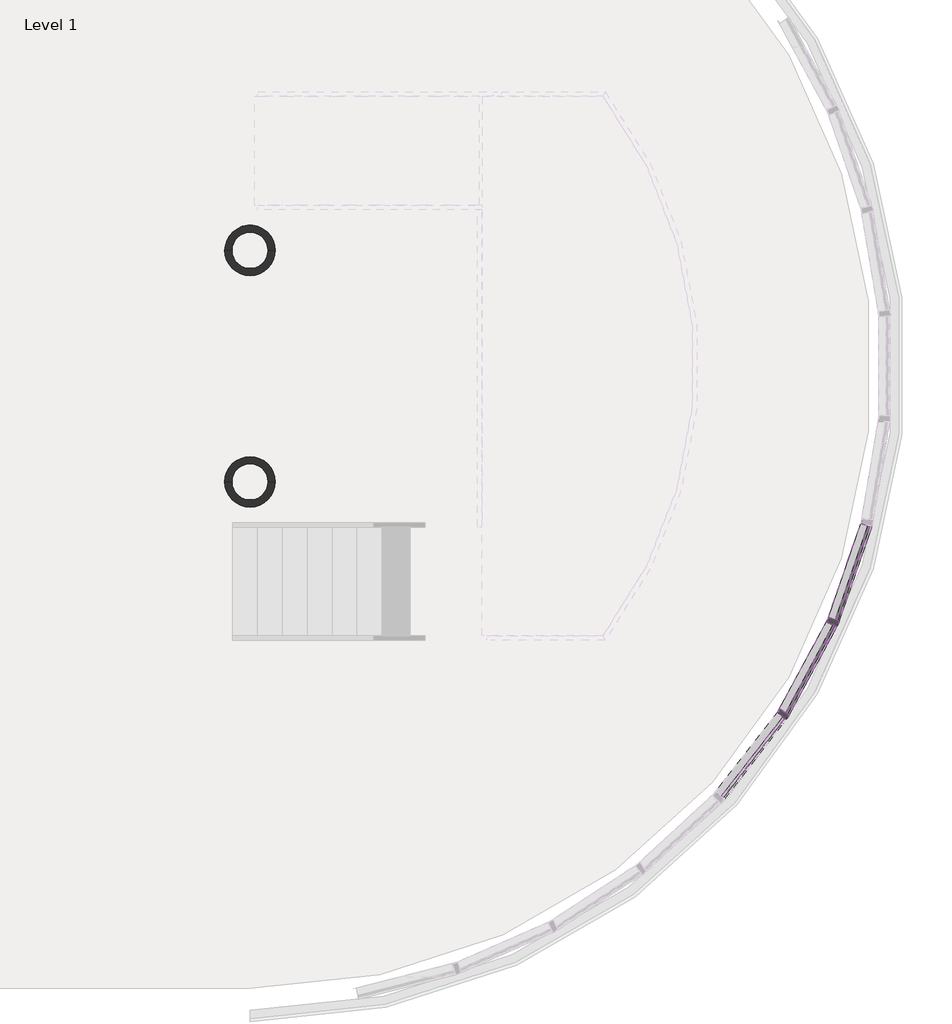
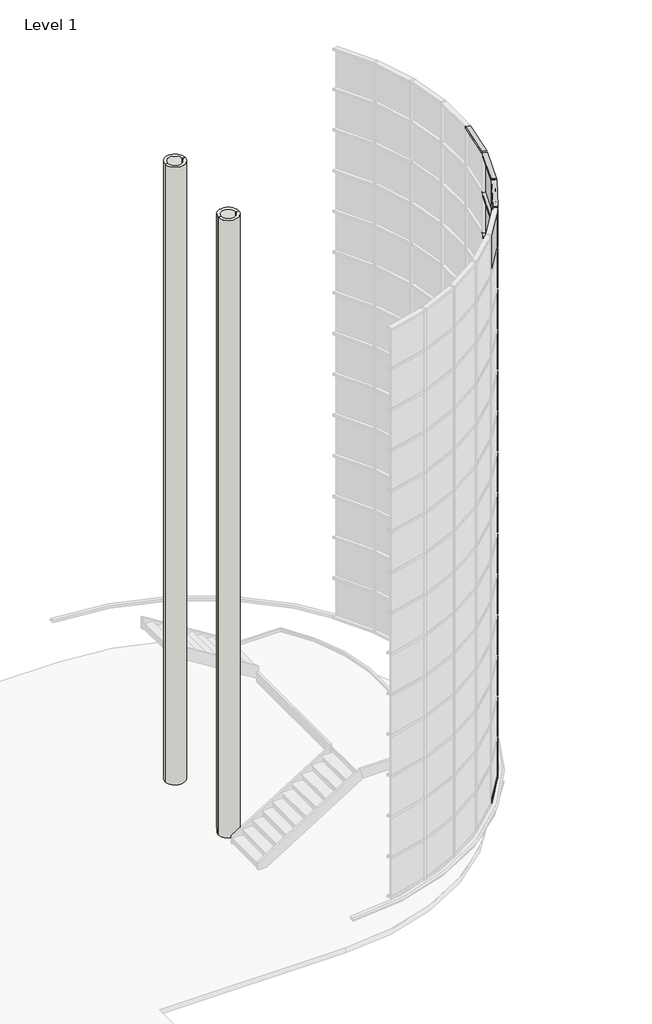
# One storey, part 7 of 20: 70 members, 29 plates, 4 walls.
"""IFC4 building model written with IfcOpenShell, lengths in millimetres."""

from ifc_helpers import new_model, si_unit, point, frame_2d, origin, origin_with_axes, place, context, project, spatial, polyline, circle_curve, trimmed, segment, composite_curve, outline, extrude, transform, mapped, element, save
from components import member_68fe8548, member_f830fa99, member_935f61b8, system_panel_glazed_da602fa6, system_panel_glazed_77fd207e

model = new_model("IFC4")

# Units and contexts
model_context = context("Model", 3, world=origin())
ifc_project = project(units=[si_unit("LENGTHUNIT", "METRE", prefix="MILLI")], contexts=[model_context])

# Site, building, storey
site = spatial("IfcSite", under=ifc_project)
building = spatial("IfcBuilding", under=site)
storey = spatial("IfcBuildingStorey", under=building, Name="Level 1", Elevation=0.0)

# Members
placement = place(None, origin())
member_shape = member_68fe8548(model_context)
element("IfcMember", 1, ObjectType="Rectangular Mullion : 2.5\" x 5\" rectangular", at=placement, inside=storey, context=model_context, shape_type="MappedRepresentation", body=[
    mapped(member_shape, transform((24863.6962317, -4227.0110197, 17983.2), x_axis=(0.0, 0.0, 1.0), y_axis=(-0.9863613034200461, 0.16459459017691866, 0.0), z_axis=(-0.16459459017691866, -0.9863613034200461, 0.0))),
])
element("IfcMember", 2, ObjectType="Rectangular Mullion : 2.5\" x 5\" rectangular", at=placement, inside=storey, context=model_context, shape_type="MappedRepresentation", body=[
    mapped(member_shape, transform((24485.9375128, -5343.4790843, 17983.2), x_axis=(0.0, 0.0, 1.0), y_axis=(-0.9458172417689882, 0.3246994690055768, 0.0), z_axis=(-0.3246994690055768, -0.9458172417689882, 0.0))),
])
element("IfcMember", 3, ObjectType="Rectangular Mullion : 2.5\" x 5\" rectangular", at=placement, inside=storey, context=model_context, shape_type="MappedRepresentation", body=[
    mapped(member_shape, transform((23929.566327, -6382.5429382, 17983.2), x_axis=(0.0, 0.0, 1.0), y_axis=(-0.879473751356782, 0.47594739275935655, 0.0), z_axis=(-0.47594739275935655, -0.879473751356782, 0.0))),
])
element("IfcMember", 4, ObjectType="Rectangular Mullion : 2.5\" x 5\" rectangular", at=placement, inside=storey, context=model_context, shape_type="MappedRepresentation", body=[
    mapped(member_shape, transform((24848.1611453, -4288.3576885, 1092.2), x_axis=(0.0, 0.0, -1.0), y_axis=(-0.9458172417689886, 0.3246994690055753, 0.0), z_axis=(0.3246994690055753, 0.9458172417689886, 0.0))),
])
element("IfcMember", 5, ObjectType="Rectangular Mullion : 2.5\" x 5\" rectangular", at=placement, inside=storey, context=model_context, shape_type="MappedRepresentation", body=[
    mapped(member_shape, transform((24460.516975, -5401.4320734, 1092.2), x_axis=(0.0, 0.0, -1.0), y_axis=(-0.879473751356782, 0.47594739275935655, 0.0), z_axis=(0.47594739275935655, 0.879473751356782, 0.0))),
])
element("IfcMember", 6, ObjectType="Rectangular Mullion : 2.5\" x 5\" rectangular", at=placement, inside=storey, context=model_context, shape_type="MappedRepresentation", body=[
    mapped(member_shape, transform((23894.9537437, -6435.521441, 1092.2), x_axis=(0.0, 0.0, -1.0), y_axis=(-0.7891405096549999, 0.6142127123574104, 0.0), z_axis=(0.6142127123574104, 0.7891405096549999, 0.0))),
])
member_2_shape = member_f830fa99(model_context)
element("IfcMember", 7, ObjectType="Rectangular Mullion : 2.5\" x 5\" rectangular", at=placement, inside=storey, context=model_context, shape_type="MappedRepresentation", body=[
    mapped(member_2_shape, transform((24863.6962317, -4227.0110197, 2298.7), x_axis=(0.0, 0.0, 1.0), y_axis=(-0.9863613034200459, 0.16459459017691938, 0.0), z_axis=(-0.16459459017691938, -0.9863613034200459, 0.0))),
])
element("IfcMember", 8, ObjectType="Rectangular Mullion : 2.5\" x 5\" rectangular", at=placement, inside=storey, context=model_context, shape_type="MappedRepresentation", body=[
    mapped(member_2_shape, transform((24485.9375128, -5343.4790843, 2298.7), x_axis=(0.0, 0.0, 1.0), y_axis=(-0.9458172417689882, 0.3246994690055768, 0.0), z_axis=(-0.3246994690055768, -0.9458172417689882, 0.0))),
])
element("IfcMember", 9, ObjectType="Rectangular Mullion : 2.5\" x 5\" rectangular", at=placement, inside=storey, context=model_context, shape_type="MappedRepresentation", body=[
    mapped(member_2_shape, transform((23929.566327, -6382.5429382, 2298.7), x_axis=(0.0, 0.0, 1.0), y_axis=(-0.879473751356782, 0.47594739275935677, 0.0), z_axis=(-0.47594739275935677, -0.879473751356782, 0.0))),
])
element("IfcMember", 10, ObjectType="Rectangular Mullion : 2.5\" x 5\" rectangular", at=placement, inside=storey, context=model_context, shape_type="MappedRepresentation", body=[
    mapped(member_2_shape, transform((24863.6962317, -4227.0110197, 3505.2), x_axis=(0.0, 0.0, 1.0), y_axis=(-0.9863613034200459, 0.16459459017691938, 0.0), z_axis=(-0.16459459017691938, -0.9863613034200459, 0.0))),
])
element("IfcMember", 11, ObjectType="Rectangular Mullion : 2.5\" x 5\" rectangular", at=placement, inside=storey, context=model_context, shape_type="MappedRepresentation", body=[
    mapped(member_2_shape, transform((24485.9375128, -5343.4790843, 3505.2), x_axis=(0.0, 0.0, 1.0), y_axis=(-0.9458172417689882, 0.3246994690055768, 0.0), z_axis=(-0.3246994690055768, -0.9458172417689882, 0.0))),
])
element("IfcMember", 12, ObjectType="Rectangular Mullion : 2.5\" x 5\" rectangular", at=placement, inside=storey, context=model_context, shape_type="MappedRepresentation", body=[
    mapped(member_2_shape, transform((23929.566327, -6382.5429382, 3505.2), x_axis=(0.0, 0.0, 1.0), y_axis=(-0.879473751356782, 0.47594739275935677, 0.0), z_axis=(-0.47594739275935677, -0.879473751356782, 0.0))),
])
element("IfcMember", 13, ObjectType="Rectangular Mullion : 2.5\" x 5\" rectangular", at=placement, inside=storey, context=model_context, shape_type="MappedRepresentation", body=[
    mapped(member_2_shape, transform((24863.6962317, -4227.0110197, 4711.7), x_axis=(0.0, 0.0, 1.0), y_axis=(-0.9863613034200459, 0.16459459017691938, 0.0), z_axis=(-0.16459459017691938, -0.9863613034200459, 0.0))),
])
element("IfcMember", 14, ObjectType="Rectangular Mullion : 2.5\" x 5\" rectangular", at=placement, inside=storey, context=model_context, shape_type="MappedRepresentation", body=[
    mapped(member_2_shape, transform((24485.9375128, -5343.4790843, 4711.7), x_axis=(0.0, 0.0, 1.0), y_axis=(-0.9458172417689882, 0.3246994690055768, 0.0), z_axis=(-0.3246994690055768, -0.9458172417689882, 0.0))),
])
element("IfcMember", 15, ObjectType="Rectangular Mullion : 2.5\" x 5\" rectangular", at=placement, inside=storey, context=model_context, shape_type="MappedRepresentation", body=[
    mapped(member_2_shape, transform((23929.566327, -6382.5429382, 4711.7), x_axis=(0.0, 0.0, 1.0), y_axis=(-0.879473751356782, 0.47594739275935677, 0.0), z_axis=(-0.47594739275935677, -0.879473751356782, 0.0))),
])
element("IfcMember", 16, ObjectType="Rectangular Mullion : 2.5\" x 5\" rectangular", at=placement, inside=storey, context=model_context, shape_type="MappedRepresentation", body=[
    mapped(member_2_shape, transform((24863.6962317, -4227.0110197, 5918.2), x_axis=(0.0, 0.0, 1.0), y_axis=(-0.9863613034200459, 0.16459459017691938, 0.0), z_axis=(-0.16459459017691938, -0.9863613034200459, 0.0))),
])
element("IfcMember", 17, ObjectType="Rectangular Mullion : 2.5\" x 5\" rectangular", at=placement, inside=storey, context=model_context, shape_type="MappedRepresentation", body=[
    mapped(member_2_shape, transform((24485.9375128, -5343.4790843, 5918.2), x_axis=(0.0, 0.0, 1.0), y_axis=(-0.9458172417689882, 0.3246994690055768, 0.0), z_axis=(-0.3246994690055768, -0.9458172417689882, 0.0))),
])
element("IfcMember", 18, ObjectType="Rectangular Mullion : 2.5\" x 5\" rectangular", at=placement, inside=storey, context=model_context, shape_type="MappedRepresentation", body=[
    mapped(member_2_shape, transform((23929.566327, -6382.5429382, 5918.2), x_axis=(0.0, 0.0, 1.0), y_axis=(-0.879473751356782, 0.47594739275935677, 0.0), z_axis=(-0.47594739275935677, -0.879473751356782, 0.0))),
])
element("IfcMember", 19, ObjectType="Rectangular Mullion : 2.5\" x 5\" rectangular", at=placement, inside=storey, context=model_context, shape_type="MappedRepresentation", body=[
    mapped(member_2_shape, transform((24863.6962317, -4227.0110197, 7124.7), x_axis=(0.0, 0.0, 1.0), y_axis=(-0.9863613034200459, 0.1645945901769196, 0.0), z_axis=(-0.1645945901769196, -0.9863613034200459, 0.0))),
])
element("IfcMember", 20, ObjectType="Rectangular Mullion : 2.5\" x 5\" rectangular", at=placement, inside=storey, context=model_context, shape_type="MappedRepresentation", body=[
    mapped(member_2_shape, transform((24485.9375128, -5343.4790843, 7124.7), x_axis=(0.0, 0.0, 1.0), y_axis=(-0.9458172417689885, 0.32469946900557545, 0.0), z_axis=(-0.32469946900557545, -0.9458172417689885, 0.0))),
])
element("IfcMember", 21, ObjectType="Rectangular Mullion : 2.5\" x 5\" rectangular", at=placement, inside=storey, context=model_context, shape_type="MappedRepresentation", body=[
    mapped(member_2_shape, transform((23929.566327, -6382.5429382, 7124.7), x_axis=(0.0, 0.0, 1.0), y_axis=(-0.879473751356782, 0.47594739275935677, 0.0), z_axis=(-0.47594739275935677, -0.879473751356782, 0.0))),
])
element("IfcMember", 22, ObjectType="Rectangular Mullion : 2.5\" x 5\" rectangular", at=placement, inside=storey, context=model_context, shape_type="MappedRepresentation", body=[
    mapped(member_2_shape, transform((24863.6962317, -4227.0110197, 8331.2), x_axis=(0.0, 0.0, 1.0), y_axis=(-0.9863613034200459, 0.1645945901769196, 0.0), z_axis=(-0.1645945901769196, -0.9863613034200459, 0.0))),
])
element("IfcMember", 23, ObjectType="Rectangular Mullion : 2.5\" x 5\" rectangular", at=placement, inside=storey, context=model_context, shape_type="MappedRepresentation", body=[
    mapped(member_2_shape, transform((24485.9375128, -5343.4790843, 8331.2), x_axis=(0.0, 0.0, 1.0), y_axis=(-0.9458172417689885, 0.32469946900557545, 0.0), z_axis=(-0.32469946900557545, -0.9458172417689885, 0.0))),
])
element("IfcMember", 24, ObjectType="Rectangular Mullion : 2.5\" x 5\" rectangular", at=placement, inside=storey, context=model_context, shape_type="MappedRepresentation", body=[
    mapped(member_2_shape, transform((23929.566327, -6382.5429382, 8331.2), x_axis=(0.0, 0.0, 1.0), y_axis=(-0.879473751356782, 0.47594739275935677, 0.0), z_axis=(-0.47594739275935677, -0.879473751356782, 0.0))),
])
element("IfcMember", 25, ObjectType="Rectangular Mullion : 2.5\" x 5\" rectangular", at=placement, inside=storey, context=model_context, shape_type="MappedRepresentation", body=[
    mapped(member_2_shape, transform((24863.6962317, -4227.0110197, 9537.7), x_axis=(0.0, 0.0, 1.0), y_axis=(-0.9863613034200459, 0.1645945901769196, 0.0), z_axis=(-0.1645945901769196, -0.9863613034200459, 0.0))),
])
element("IfcMember", 26, ObjectType="Rectangular Mullion : 2.5\" x 5\" rectangular", at=placement, inside=storey, context=model_context, shape_type="MappedRepresentation", body=[
    mapped(member_2_shape, transform((24485.9375128, -5343.4790843, 9537.7), x_axis=(0.0, 0.0, 1.0), y_axis=(-0.9458172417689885, 0.32469946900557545, 0.0), z_axis=(-0.32469946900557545, -0.9458172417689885, 0.0))),
])
element("IfcMember", 27, ObjectType="Rectangular Mullion : 2.5\" x 5\" rectangular", at=placement, inside=storey, context=model_context, shape_type="MappedRepresentation", body=[
    mapped(member_2_shape, transform((23929.566327, -6382.5429382, 9537.7), x_axis=(0.0, 0.0, 1.0), y_axis=(-0.879473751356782, 0.47594739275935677, 0.0), z_axis=(-0.47594739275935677, -0.879473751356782, 0.0))),
])
element("IfcMember", 28, ObjectType="Rectangular Mullion : 2.5\" x 5\" rectangular", at=placement, inside=storey, context=model_context, shape_type="MappedRepresentation", body=[
    mapped(member_2_shape, transform((24863.6962317, -4227.0110197, 10744.2), x_axis=(0.0, 0.0, 1.0), y_axis=(-0.9863613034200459, 0.1645945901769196, 0.0), z_axis=(-0.1645945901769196, -0.9863613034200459, 0.0))),
])
element("IfcMember", 29, ObjectType="Rectangular Mullion : 2.5\" x 5\" rectangular", at=placement, inside=storey, context=model_context, shape_type="MappedRepresentation", body=[
    mapped(member_2_shape, transform((24485.9375128, -5343.4790843, 10744.2), x_axis=(0.0, 0.0, 1.0), y_axis=(-0.9458172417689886, 0.3246994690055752, 0.0), z_axis=(-0.3246994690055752, -0.9458172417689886, 0.0))),
])
element("IfcMember", 30, ObjectType="Rectangular Mullion : 2.5\" x 5\" rectangular", at=placement, inside=storey, context=model_context, shape_type="MappedRepresentation", body=[
    mapped(member_2_shape, transform((23929.566327, -6382.5429382, 10744.2), x_axis=(0.0, 0.0, 1.0), y_axis=(-0.8794737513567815, 0.47594739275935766, 0.0), z_axis=(-0.47594739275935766, -0.8794737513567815, 0.0))),
])
element("IfcMember", 31, ObjectType="Rectangular Mullion : 2.5\" x 5\" rectangular", at=placement, inside=storey, context=model_context, shape_type="MappedRepresentation", body=[
    mapped(member_2_shape, transform((24863.6962317, -4227.0110197, 11950.7), x_axis=(0.0, 0.0, 1.0), y_axis=(-0.9863613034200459, 0.1645945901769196, 0.0), z_axis=(-0.1645945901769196, -0.9863613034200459, 0.0))),
])
element("IfcMember", 32, ObjectType="Rectangular Mullion : 2.5\" x 5\" rectangular", at=placement, inside=storey, context=model_context, shape_type="MappedRepresentation", body=[
    mapped(member_2_shape, transform((24485.9375128, -5343.4790843, 11950.7), x_axis=(0.0, 0.0, 1.0), y_axis=(-0.9458172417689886, 0.3246994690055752, 0.0), z_axis=(-0.3246994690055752, -0.9458172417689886, 0.0))),
])
element("IfcMember", 33, ObjectType="Rectangular Mullion : 2.5\" x 5\" rectangular", at=placement, inside=storey, context=model_context, shape_type="MappedRepresentation", body=[
    mapped(member_2_shape, transform((23929.566327, -6382.5429382, 11950.7), x_axis=(0.0, 0.0, 1.0), y_axis=(-0.8794737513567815, 0.47594739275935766, 0.0), z_axis=(-0.47594739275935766, -0.8794737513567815, 0.0))),
])
element("IfcMember", 34, ObjectType="Rectangular Mullion : 2.5\" x 5\" rectangular", at=placement, inside=storey, context=model_context, shape_type="MappedRepresentation", body=[
    mapped(member_2_shape, transform((24863.6962317, -4227.0110197, 13157.2), x_axis=(0.0, 0.0, 1.0), y_axis=(-0.9863613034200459, 0.1645945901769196, 0.0), z_axis=(-0.1645945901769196, -0.9863613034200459, 0.0))),
])
element("IfcMember", 35, ObjectType="Rectangular Mullion : 2.5\" x 5\" rectangular", at=placement, inside=storey, context=model_context, shape_type="MappedRepresentation", body=[
    mapped(member_2_shape, transform((24485.9375128, -5343.4790843, 13157.2), x_axis=(0.0, 0.0, 1.0), y_axis=(-0.9458172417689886, 0.3246994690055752, 0.0), z_axis=(-0.3246994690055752, -0.9458172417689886, 0.0))),
])
element("IfcMember", 36, ObjectType="Rectangular Mullion : 2.5\" x 5\" rectangular", at=placement, inside=storey, context=model_context, shape_type="MappedRepresentation", body=[
    mapped(member_2_shape, transform((23929.566327, -6382.5429382, 13157.2), x_axis=(0.0, 0.0, 1.0), y_axis=(-0.8794737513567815, 0.47594739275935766, 0.0), z_axis=(-0.47594739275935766, -0.8794737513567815, 0.0))),
])
element("IfcMember", 37, ObjectType="Rectangular Mullion : 2.5\" x 5\" rectangular", at=placement, inside=storey, context=model_context, shape_type="MappedRepresentation", body=[
    mapped(member_2_shape, transform((24485.9375128, -5343.4790843, 14363.7), x_axis=(0.0, 0.0, 1.0), y_axis=(-0.9458172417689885, 0.32469946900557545, 0.0), z_axis=(-0.32469946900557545, -0.9458172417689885, 0.0))),
])
element("IfcMember", 38, ObjectType="Rectangular Mullion : 2.5\" x 5\" rectangular", at=placement, inside=storey, context=model_context, shape_type="MappedRepresentation", body=[
    mapped(member_2_shape, transform((23929.566327, -6382.5429382, 14363.7), x_axis=(0.0, 0.0, 1.0), y_axis=(-0.879473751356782, 0.47594739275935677, 0.0), z_axis=(-0.47594739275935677, -0.879473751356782, 0.0))),
])
element("IfcMember", 39, ObjectType="Rectangular Mullion : 2.5\" x 5\" rectangular", at=placement, inside=storey, context=model_context, shape_type="MappedRepresentation", body=[
    mapped(member_2_shape, transform((24485.9375128, -5343.4790843, 15570.2), x_axis=(0.0, 0.0, 1.0), y_axis=(-0.9458172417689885, 0.32469946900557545, 0.0), z_axis=(-0.32469946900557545, -0.9458172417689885, 0.0))),
])
element("IfcMember", 40, ObjectType="Rectangular Mullion : 2.5\" x 5\" rectangular", at=placement, inside=storey, context=model_context, shape_type="MappedRepresentation", body=[
    mapped(member_2_shape, transform((23929.566327, -6382.5429382, 15570.2), x_axis=(0.0, 0.0, 1.0), y_axis=(-0.879473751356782, 0.47594739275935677, 0.0), z_axis=(-0.47594739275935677, -0.879473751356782, 0.0))),
])
element("IfcMember", 41, ObjectType="Rectangular Mullion : 2.5\" x 5\" rectangular", at=placement, inside=storey, context=model_context, shape_type="MappedRepresentation", body=[
    mapped(member_2_shape, transform((24485.9375128, -5343.4790843, 16776.7), x_axis=(0.0, 0.0, 1.0), y_axis=(-0.9458172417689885, 0.32469946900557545, 0.0), z_axis=(-0.32469946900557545, -0.9458172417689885, 0.0))),
])
element("IfcMember", 42, ObjectType="Rectangular Mullion : 2.5\" x 5\" rectangular", at=placement, inside=storey, context=model_context, shape_type="MappedRepresentation", body=[
    mapped(member_2_shape, transform((23929.566327, -6382.5429382, 16776.7), x_axis=(0.0, 0.0, 1.0), y_axis=(-0.879473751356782, 0.47594739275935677, 0.0), z_axis=(-0.47594739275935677, -0.879473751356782, 0.0))),
])
member_3_shape = member_935f61b8(model_context)
element("IfcMember", 43, ObjectType="Rectangular Mullion : 2.5\" x 5\" rectangular", at=placement, inside=storey, context=model_context, shape_type="MappedRepresentation", body=[
    mapped(member_3_shape, transform((24475.6283047, -5373.5087818, 1092.2), x_axis=(-0.4016954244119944, -0.915773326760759, 0.0), y_axis=(-0.915773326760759, 0.4016954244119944, 0.0), z_axis=(0.0, 0.0, -1.0))),
])
element("IfcMember", 44, ObjectType="Rectangular Mullion : 2.5\" x 5\" rectangular", at=placement, inside=storey, context=model_context, shape_type="MappedRepresentation", body=[
    mapped(member_3_shape, transform((23914.4549973, -6410.4662299, 1092.2), x_axis=(-0.5469481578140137, -0.8371664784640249, 0.0), y_axis=(-0.8371664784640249, 0.5469481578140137, 0.0), z_axis=(0.0, 0.0, -1.0))),
])
element("IfcMember", 45, ObjectType="Rectangular Mullion : 2.5\" x 5\" rectangular", at=placement, inside=storey, context=model_context, shape_type="MappedRepresentation", body=[
    mapped(member_3_shape, transform((24475.6283047, -5373.5087818, 2298.7), x_axis=(-0.4016954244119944, -0.915773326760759, 0.0), y_axis=(-0.915773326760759, 0.4016954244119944, 0.0), z_axis=(0.0, 0.0, -1.0))),
])
element("IfcMember", 46, ObjectType="Rectangular Mullion : 2.5\" x 5\" rectangular", at=placement, inside=storey, context=model_context, shape_type="MappedRepresentation", body=[
    mapped(member_3_shape, transform((23914.4549973, -6410.4662299, 2298.7), x_axis=(-0.5469481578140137, -0.8371664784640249, 0.0), y_axis=(-0.8371664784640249, 0.5469481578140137, 0.0), z_axis=(0.0, 0.0, -1.0))),
])
element("IfcMember", 47, ObjectType="Rectangular Mullion : 2.5\" x 5\" rectangular", at=placement, inside=storey, context=model_context, shape_type="MappedRepresentation", body=[
    mapped(member_3_shape, transform((24475.6283047, -5373.5087818, 3505.2), x_axis=(-0.4016954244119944, -0.915773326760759, 0.0), y_axis=(-0.915773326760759, 0.4016954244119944, 0.0), z_axis=(0.0, 0.0, -1.0))),
])
element("IfcMember", 48, ObjectType="Rectangular Mullion : 2.5\" x 5\" rectangular", at=placement, inside=storey, context=model_context, shape_type="MappedRepresentation", body=[
    mapped(member_3_shape, transform((23914.4549973, -6410.4662299, 3505.2), x_axis=(-0.5469481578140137, -0.8371664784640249, 0.0), y_axis=(-0.8371664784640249, 0.5469481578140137, 0.0), z_axis=(0.0, 0.0, -1.0))),
])
element("IfcMember", 49, ObjectType="Rectangular Mullion : 2.5\" x 5\" rectangular", at=placement, inside=storey, context=model_context, shape_type="MappedRepresentation", body=[
    mapped(member_3_shape, transform((24475.6283047, -5373.5087818, 4711.7), x_axis=(-0.4016954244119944, -0.915773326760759, 0.0), y_axis=(-0.915773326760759, 0.4016954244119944, 0.0), z_axis=(0.0, 0.0, -1.0))),
])
element("IfcMember", 50, ObjectType="Rectangular Mullion : 2.5\" x 5\" rectangular", at=placement, inside=storey, context=model_context, shape_type="MappedRepresentation", body=[
    mapped(member_3_shape, transform((23914.4549973, -6410.4662299, 4711.7), x_axis=(-0.5469481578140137, -0.8371664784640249, 0.0), y_axis=(-0.8371664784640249, 0.5469481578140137, 0.0), z_axis=(0.0, 0.0, -1.0))),
])
element("IfcMember", 51, ObjectType="Rectangular Mullion : 2.5\" x 5\" rectangular", at=placement, inside=storey, context=model_context, shape_type="MappedRepresentation", body=[
    mapped(member_3_shape, transform((24475.6283047, -5373.5087818, 5918.2), x_axis=(-0.4016954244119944, -0.915773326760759, 0.0), y_axis=(-0.915773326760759, 0.4016954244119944, 0.0), z_axis=(0.0, 0.0, -1.0))),
])
element("IfcMember", 52, ObjectType="Rectangular Mullion : 2.5\" x 5\" rectangular", at=placement, inside=storey, context=model_context, shape_type="MappedRepresentation", body=[
    mapped(member_3_shape, transform((23914.4549973, -6410.4662299, 5918.2), x_axis=(-0.5469481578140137, -0.8371664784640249, 0.0), y_axis=(-0.8371664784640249, 0.5469481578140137, 0.0), z_axis=(0.0, 0.0, -1.0))),
])
element("IfcMember", 53, ObjectType="Rectangular Mullion : 2.5\" x 5\" rectangular", at=placement, inside=storey, context=model_context, shape_type="MappedRepresentation", body=[
    mapped(member_3_shape, transform((24475.6283047, -5373.5087818, 7124.7), x_axis=(-0.4016954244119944, -0.915773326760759, 0.0), y_axis=(-0.915773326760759, 0.4016954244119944, 0.0), z_axis=(0.0, 0.0, -1.0))),
])
element("IfcMember", 54, ObjectType="Rectangular Mullion : 2.5\" x 5\" rectangular", at=placement, inside=storey, context=model_context, shape_type="MappedRepresentation", body=[
    mapped(member_3_shape, transform((23914.4549973, -6410.4662299, 7124.7), x_axis=(-0.5469481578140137, -0.8371664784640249, 0.0), y_axis=(-0.8371664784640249, 0.5469481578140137, 0.0), z_axis=(0.0, 0.0, -1.0))),
])
element("IfcMember", 55, ObjectType="Rectangular Mullion : 2.5\" x 5\" rectangular", at=placement, inside=storey, context=model_context, shape_type="MappedRepresentation", body=[
    mapped(member_3_shape, transform((24475.6283047, -5373.5087818, 8331.2), x_axis=(-0.4016954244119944, -0.915773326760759, 0.0), y_axis=(-0.915773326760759, 0.4016954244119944, 0.0), z_axis=(0.0, 0.0, -1.0))),
])
element("IfcMember", 56, ObjectType="Rectangular Mullion : 2.5\" x 5\" rectangular", at=placement, inside=storey, context=model_context, shape_type="MappedRepresentation", body=[
    mapped(member_3_shape, transform((23914.4549973, -6410.4662299, 8331.2), x_axis=(-0.5469481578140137, -0.8371664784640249, 0.0), y_axis=(-0.8371664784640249, 0.5469481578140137, 0.0), z_axis=(0.0, 0.0, -1.0))),
])
element("IfcMember", 57, ObjectType="Rectangular Mullion : 2.5\" x 5\" rectangular", at=placement, inside=storey, context=model_context, shape_type="MappedRepresentation", body=[
    mapped(member_3_shape, transform((24475.6283047, -5373.5087818, 9537.7), x_axis=(-0.4016954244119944, -0.915773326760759, 0.0), y_axis=(-0.915773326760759, 0.4016954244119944, 0.0), z_axis=(0.0, 0.0, -1.0))),
])
element("IfcMember", 58, ObjectType="Rectangular Mullion : 2.5\" x 5\" rectangular", at=placement, inside=storey, context=model_context, shape_type="MappedRepresentation", body=[
    mapped(member_3_shape, transform((23914.4549973, -6410.4662299, 9537.7), x_axis=(-0.5469481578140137, -0.8371664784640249, 0.0), y_axis=(-0.8371664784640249, 0.5469481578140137, 0.0), z_axis=(0.0, 0.0, -1.0))),
])
element("IfcMember", 59, ObjectType="Rectangular Mullion : 2.5\" x 5\" rectangular", at=placement, inside=storey, context=model_context, shape_type="MappedRepresentation", body=[
    mapped(member_3_shape, transform((24475.6283047, -5373.5087818, 10744.2), x_axis=(-0.4016954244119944, -0.915773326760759, 0.0), y_axis=(-0.915773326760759, 0.4016954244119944, 0.0), z_axis=(0.0, 0.0, -1.0))),
])
element("IfcMember", 60, ObjectType="Rectangular Mullion : 2.5\" x 5\" rectangular", at=placement, inside=storey, context=model_context, shape_type="MappedRepresentation", body=[
    mapped(member_3_shape, transform((23914.4549973, -6410.4662299, 10744.2), x_axis=(-0.5469481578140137, -0.8371664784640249, 0.0), y_axis=(-0.8371664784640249, 0.5469481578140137, 0.0), z_axis=(0.0, 0.0, -1.0))),
])
element("IfcMember", 61, ObjectType="Rectangular Mullion : 2.5\" x 5\" rectangular", at=placement, inside=storey, context=model_context, shape_type="MappedRepresentation", body=[
    mapped(member_3_shape, transform((24475.6283047, -5373.5087818, 11950.7), x_axis=(-0.4016954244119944, -0.915773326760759, 0.0), y_axis=(-0.915773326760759, 0.4016954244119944, 0.0), z_axis=(0.0, 0.0, -1.0))),
])
element("IfcMember", 62, ObjectType="Rectangular Mullion : 2.5\" x 5\" rectangular", at=placement, inside=storey, context=model_context, shape_type="MappedRepresentation", body=[
    mapped(member_3_shape, transform((23914.4549973, -6410.4662299, 11950.7), x_axis=(-0.5469481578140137, -0.8371664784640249, 0.0), y_axis=(-0.8371664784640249, 0.5469481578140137, 0.0), z_axis=(0.0, 0.0, -1.0))),
])
element("IfcMember", 63, ObjectType="Rectangular Mullion : 2.5\" x 5\" rectangular", at=placement, inside=storey, context=model_context, shape_type="MappedRepresentation", body=[
    mapped(member_3_shape, transform((24475.6283047, -5373.5087818, 13157.2), x_axis=(-0.4016954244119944, -0.915773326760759, 0.0), y_axis=(-0.915773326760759, 0.4016954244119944, 0.0), z_axis=(0.0, 0.0, -1.0))),
])
element("IfcMember", 64, ObjectType="Rectangular Mullion : 2.5\" x 5\" rectangular", at=placement, inside=storey, context=model_context, shape_type="MappedRepresentation", body=[
    mapped(member_3_shape, transform((23914.4549973, -6410.4662299, 13157.2), x_axis=(-0.5469481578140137, -0.8371664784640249, 0.0), y_axis=(-0.8371664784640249, 0.5469481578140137, 0.0), z_axis=(0.0, 0.0, -1.0))),
])
element("IfcMember", 65, ObjectType="Rectangular Mullion : 2.5\" x 5\" rectangular", at=placement, inside=storey, context=model_context, shape_type="MappedRepresentation", body=[
    mapped(member_3_shape, transform((24475.6283047, -5373.5087818, 14363.7), x_axis=(-0.4016954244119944, -0.915773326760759, 0.0), y_axis=(-0.915773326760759, 0.4016954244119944, 0.0), z_axis=(0.0, 0.0, -1.0))),
])
element("IfcMember", 66, ObjectType="Rectangular Mullion : 2.5\" x 5\" rectangular", at=placement, inside=storey, context=model_context, shape_type="MappedRepresentation", body=[
    mapped(member_3_shape, transform((23914.4549973, -6410.4662299, 14363.7), x_axis=(-0.5469481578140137, -0.8371664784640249, 0.0), y_axis=(-0.8371664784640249, 0.5469481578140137, 0.0), z_axis=(0.0, 0.0, -1.0))),
])
element("IfcMember", 67, ObjectType="Rectangular Mullion : 2.5\" x 5\" rectangular", at=placement, inside=storey, context=model_context, shape_type="MappedRepresentation", body=[
    mapped(member_3_shape, transform((24475.6283047, -5373.5087818, 15570.2), x_axis=(-0.4016954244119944, -0.915773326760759, 0.0), y_axis=(-0.915773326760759, 0.4016954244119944, 0.0), z_axis=(0.0, 0.0, -1.0))),
])
element("IfcMember", 68, ObjectType="Rectangular Mullion : 2.5\" x 5\" rectangular", at=placement, inside=storey, context=model_context, shape_type="MappedRepresentation", body=[
    mapped(member_3_shape, transform((23914.4549973, -6410.4662299, 15570.2), x_axis=(-0.5469481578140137, -0.8371664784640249, 0.0), y_axis=(-0.8371664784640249, 0.5469481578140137, 0.0), z_axis=(0.0, 0.0, -1.0))),
])
element("IfcMember", 69, ObjectType="Rectangular Mullion : 2.5\" x 5\" rectangular", at=placement, inside=storey, context=model_context, shape_type="MappedRepresentation", body=[
    mapped(member_3_shape, transform((24475.6283047, -5373.5087818, 16776.7), x_axis=(-0.4016954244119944, -0.915773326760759, 0.0), y_axis=(-0.915773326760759, 0.4016954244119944, 0.0), z_axis=(0.0, 0.0, -1.0))),
])
element("IfcMember", 70, ObjectType="Rectangular Mullion : 2.5\" x 5\" rectangular", at=placement, inside=storey, context=model_context, shape_type="MappedRepresentation", body=[
    mapped(member_3_shape, transform((23914.4549973, -6410.4662299, 16776.7), x_axis=(-0.5469481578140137, -0.8371664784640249, 0.0), y_axis=(-0.8371664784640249, 0.5469481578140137, 0.0), z_axis=(0.0, 0.0, -1.0))),
])

# Plates
system_panel_glazed_shape = system_panel_glazed_da602fa6(model_context)
element("IfcPlate", 71, ObjectType="System Panel : Glazed", at=placement, inside=storey, context=model_context, shape_type="MappedRepresentation", body=[
    mapped(system_panel_glazed_shape, transform((24667.049329, -4815.9183864, 1155.7), x_axis=(-0.32469946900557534, -0.9458172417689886, 0.0), y_axis=(0.9458172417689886, -0.32469946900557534, 0.0), z_axis=(0.0, 0.0, 1.0))),
])
element("IfcPlate", 72, ObjectType="System Panel : Glazed", at=placement, inside=storey, context=model_context, shape_type="MappedRepresentation", body=[
    mapped(system_panel_glazed_shape, transform((24195.041651, -5891.9875058, 1155.7), x_axis=(-0.47594739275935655, -0.879473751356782, 0.0), y_axis=(0.879473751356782, -0.47594739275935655, 0.0), z_axis=(0.0, 0.0, 1.0))),
])
element("IfcPlate", 73, ObjectType="System Panel : Glazed", at=placement, inside=storey, context=model_context, shape_type="MappedRepresentation", body=[
    mapped(system_panel_glazed_shape, transform((24667.049329, -4815.9183864, 16808.45), x_axis=(-0.3246994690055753, -0.9458172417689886, 0.0), y_axis=(0.9458172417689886, -0.3246994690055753, 0.0), z_axis=(0.0, 0.0, 1.0))),
])
element("IfcPlate", 74, ObjectType="System Panel : Glazed", at=placement, inside=storey, context=model_context, shape_type="MappedRepresentation", body=[
    mapped(system_panel_glazed_shape, transform((24195.041651, -5891.9875058, 16808.45), x_axis=(-0.47594739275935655, -0.879473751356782, 0.0), y_axis=(0.879473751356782, -0.47594739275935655, 0.0), z_axis=(0.0, 0.0, 1.0))),
])
element("IfcPlate", 75, ObjectType="System Panel : Glazed", at=placement, inside=storey, context=model_context, shape_type="MappedRepresentation", body=[
    mapped(system_panel_glazed_shape, transform((23552.3563867, -6875.6905346, 16808.45), x_axis=(-0.6142127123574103, -0.789140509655, 0.0), y_axis=(0.789140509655, -0.6142127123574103, 0.0), z_axis=(0.0, 0.0, 1.0))),
])
system_panel_glazed_2_shape = system_panel_glazed_77fd207e(model_context)
element("IfcPlate", 76, ObjectType="System Panel : Glazed", at=placement, inside=storey, context=model_context, shape_type="MappedRepresentation", body=[
    mapped(system_panel_glazed_2_shape, transform((24667.049329, -4815.9183864, 2330.45), x_axis=(-0.3246994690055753, -0.9458172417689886, 0.0), y_axis=(0.9458172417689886, -0.3246994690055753, 0.0), z_axis=(0.0, 0.0, 1.0))),
])
element("IfcPlate", 77, ObjectType="System Panel : Glazed", at=placement, inside=storey, context=model_context, shape_type="MappedRepresentation", body=[
    mapped(system_panel_glazed_2_shape, transform((24195.041651, -5891.9875058, 2330.45), x_axis=(-0.47594739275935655, -0.879473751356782, 0.0), y_axis=(0.879473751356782, -0.47594739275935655, 0.0), z_axis=(0.0, 0.0, 1.0))),
])
element("IfcPlate", 78, ObjectType="System Panel : Glazed", at=placement, inside=storey, context=model_context, shape_type="MappedRepresentation", body=[
    mapped(system_panel_glazed_2_shape, transform((24667.049329, -4815.9183864, 3536.95), x_axis=(-0.3246994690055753, -0.9458172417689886, 0.0), y_axis=(0.9458172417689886, -0.3246994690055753, 0.0), z_axis=(0.0, 0.0, 1.0))),
])
element("IfcPlate", 79, ObjectType="System Panel : Glazed", at=placement, inside=storey, context=model_context, shape_type="MappedRepresentation", body=[
    mapped(system_panel_glazed_2_shape, transform((24195.041651, -5891.9875058, 3536.95), x_axis=(-0.47594739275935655, -0.879473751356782, 0.0), y_axis=(0.879473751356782, -0.47594739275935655, 0.0), z_axis=(0.0, 0.0, 1.0))),
])
element("IfcPlate", 80, ObjectType="System Panel : Glazed", at=placement, inside=storey, context=model_context, shape_type="MappedRepresentation", body=[
    mapped(system_panel_glazed_2_shape, transform((24667.049329, -4815.9183864, 4743.45), x_axis=(-0.32469946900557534, -0.9458172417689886, 0.0), y_axis=(0.9458172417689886, -0.32469946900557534, 0.0), z_axis=(0.0, 0.0, 1.0))),
])
element("IfcPlate", 81, ObjectType="System Panel : Glazed", at=placement, inside=storey, context=model_context, shape_type="MappedRepresentation", body=[
    mapped(system_panel_glazed_2_shape, transform((24195.041651, -5891.9875058, 4743.45), x_axis=(-0.4759473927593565, -0.8794737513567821, 0.0), y_axis=(0.8794737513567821, -0.4759473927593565, 0.0), z_axis=(0.0, 0.0, 1.0))),
])
element("IfcPlate", 82, ObjectType="System Panel : Glazed", at=placement, inside=storey, context=model_context, shape_type="MappedRepresentation", body=[
    mapped(system_panel_glazed_2_shape, transform((24667.049329, -4815.9183864, 5949.95), x_axis=(-0.3246994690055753, -0.9458172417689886, 0.0), y_axis=(0.9458172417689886, -0.3246994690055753, 0.0), z_axis=(0.0, 0.0, 1.0))),
])
element("IfcPlate", 83, ObjectType="System Panel : Glazed", at=placement, inside=storey, context=model_context, shape_type="MappedRepresentation", body=[
    mapped(system_panel_glazed_2_shape, transform((24195.041651, -5891.9875058, 5949.95), x_axis=(-0.47594739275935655, -0.879473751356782, 0.0), y_axis=(0.879473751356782, -0.47594739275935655, 0.0), z_axis=(0.0, 0.0, 1.0))),
])
element("IfcPlate", 84, ObjectType="System Panel : Glazed", at=placement, inside=storey, context=model_context, shape_type="MappedRepresentation", body=[
    mapped(system_panel_glazed_2_shape, transform((24667.049329, -4815.9183864, 7156.45), x_axis=(-0.3246994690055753, -0.9458172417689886, 0.0), y_axis=(0.9458172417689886, -0.3246994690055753, 0.0), z_axis=(0.0, 0.0, 1.0))),
])
element("IfcPlate", 85, ObjectType="System Panel : Glazed", at=placement, inside=storey, context=model_context, shape_type="MappedRepresentation", body=[
    mapped(system_panel_glazed_2_shape, transform((24195.041651, -5891.9875058, 7156.45), x_axis=(-0.47594739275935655, -0.879473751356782, 0.0), y_axis=(0.879473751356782, -0.47594739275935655, 0.0), z_axis=(0.0, 0.0, 1.0))),
])
element("IfcPlate", 86, ObjectType="System Panel : Glazed", at=placement, inside=storey, context=model_context, shape_type="MappedRepresentation", body=[
    mapped(system_panel_glazed_2_shape, transform((24667.049329, -4815.9183864, 8362.95), x_axis=(-0.3246994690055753, -0.9458172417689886, 0.0), y_axis=(0.9458172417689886, -0.3246994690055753, 0.0), z_axis=(0.0, 0.0, 1.0))),
])
element("IfcPlate", 87, ObjectType="System Panel : Glazed", at=placement, inside=storey, context=model_context, shape_type="MappedRepresentation", body=[
    mapped(system_panel_glazed_2_shape, transform((24195.041651, -5891.9875058, 8362.95), x_axis=(-0.47594739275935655, -0.879473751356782, 0.0), y_axis=(0.879473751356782, -0.47594739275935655, 0.0), z_axis=(0.0, 0.0, 1.0))),
])
element("IfcPlate", 88, ObjectType="System Panel : Glazed", at=placement, inside=storey, context=model_context, shape_type="MappedRepresentation", body=[
    mapped(system_panel_glazed_2_shape, transform((24667.049329, -4815.9183864, 9569.45), x_axis=(-0.3246994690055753, -0.9458172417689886, 0.0), y_axis=(0.9458172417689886, -0.3246994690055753, 0.0), z_axis=(0.0, 0.0, 1.0))),
])
element("IfcPlate", 89, ObjectType="System Panel : Glazed", at=placement, inside=storey, context=model_context, shape_type="MappedRepresentation", body=[
    mapped(system_panel_glazed_2_shape, transform((24195.041651, -5891.9875058, 9569.45), x_axis=(-0.47594739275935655, -0.8794737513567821, 0.0), y_axis=(0.8794737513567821, -0.47594739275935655, 0.0), z_axis=(0.0, 0.0, 1.0))),
])
element("IfcPlate", 90, ObjectType="System Panel : Glazed", at=placement, inside=storey, context=model_context, shape_type="MappedRepresentation", body=[
    mapped(system_panel_glazed_2_shape, transform((24667.049329, -4815.9183864, 10775.95), x_axis=(-0.3246994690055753, -0.9458172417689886, 0.0), y_axis=(0.9458172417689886, -0.3246994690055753, 0.0), z_axis=(0.0, 0.0, 1.0))),
])
element("IfcPlate", 91, ObjectType="System Panel : Glazed", at=placement, inside=storey, context=model_context, shape_type="MappedRepresentation", body=[
    mapped(system_panel_glazed_2_shape, transform((24195.041651, -5891.9875058, 10775.95), x_axis=(-0.47594739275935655, -0.879473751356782, 0.0), y_axis=(0.879473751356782, -0.47594739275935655, 0.0), z_axis=(0.0, 0.0, 1.0))),
])
element("IfcPlate", 92, ObjectType="System Panel : Glazed", at=placement, inside=storey, context=model_context, shape_type="MappedRepresentation", body=[
    mapped(system_panel_glazed_2_shape, transform((24667.049329, -4815.9183864, 11982.45), x_axis=(-0.3246994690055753, -0.9458172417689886, 0.0), y_axis=(0.9458172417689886, -0.3246994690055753, 0.0), z_axis=(0.0, 0.0, 1.0))),
])
element("IfcPlate", 93, ObjectType="System Panel : Glazed", at=placement, inside=storey, context=model_context, shape_type="MappedRepresentation", body=[
    mapped(system_panel_glazed_2_shape, transform((24195.041651, -5891.9875058, 11982.45), x_axis=(-0.47594739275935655, -0.879473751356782, 0.0), y_axis=(0.879473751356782, -0.47594739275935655, 0.0), z_axis=(0.0, 0.0, 1.0))),
])
element("IfcPlate", 94, ObjectType="System Panel : Glazed", at=placement, inside=storey, context=model_context, shape_type="MappedRepresentation", body=[
    mapped(system_panel_glazed_2_shape, transform((24667.049329, -4815.9183864, 13188.95), x_axis=(-0.3246994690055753, -0.9458172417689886, 0.0), y_axis=(0.9458172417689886, -0.3246994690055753, 0.0), z_axis=(0.0, 0.0, 1.0))),
])
element("IfcPlate", 95, ObjectType="System Panel : Glazed", at=placement, inside=storey, context=model_context, shape_type="MappedRepresentation", body=[
    mapped(system_panel_glazed_2_shape, transform((24195.041651, -5891.9875058, 13188.95), x_axis=(-0.47594739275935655, -0.879473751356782, 0.0), y_axis=(0.879473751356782, -0.47594739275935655, 0.0), z_axis=(0.0, 0.0, 1.0))),
])
element("IfcPlate", 96, ObjectType="System Panel : Glazed", at=placement, inside=storey, context=model_context, shape_type="MappedRepresentation", body=[
    mapped(system_panel_glazed_2_shape, transform((24667.049329, -4815.9183864, 14395.45), x_axis=(-0.3246994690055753, -0.9458172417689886, 0.0), y_axis=(0.9458172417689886, -0.3246994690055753, 0.0), z_axis=(0.0, 0.0, 1.0))),
])
element("IfcPlate", 97, ObjectType="System Panel : Glazed", at=placement, inside=storey, context=model_context, shape_type="MappedRepresentation", body=[
    mapped(system_panel_glazed_2_shape, transform((24195.041651, -5891.9875058, 14395.45), x_axis=(-0.47594739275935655, -0.879473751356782, 0.0), y_axis=(0.879473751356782, -0.47594739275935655, 0.0), z_axis=(0.0, 0.0, 1.0))),
])
element("IfcPlate", 98, ObjectType="System Panel : Glazed", at=placement, inside=storey, context=model_context, shape_type="MappedRepresentation", body=[
    mapped(system_panel_glazed_2_shape, transform((24667.049329, -4815.9183864, 15601.95), x_axis=(-0.3246994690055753, -0.9458172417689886, 0.0), y_axis=(0.9458172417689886, -0.3246994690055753, 0.0), z_axis=(0.0, 0.0, 1.0))),
])
element("IfcPlate", 99, ObjectType="System Panel : Glazed", at=placement, inside=storey, context=model_context, shape_type="MappedRepresentation", body=[
    mapped(system_panel_glazed_2_shape, transform((24195.041651, -5891.9875058, 15601.95), x_axis=(-0.47594739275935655, -0.879473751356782, 0.0), y_axis=(0.879473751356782, -0.47594739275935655, 0.0), z_axis=(0.0, 0.0, 1.0))),
])

# Walls
element("IfcWall", 100, ObjectType="Interior - 3 1/8\" Partition (1-hr)", at=placement, inside=storey, context=model_context, shape_type="SweptSolid", body=[
    extrude(outline(composite_curve([segment(polyline([(17734.7339721, -1208.8226681), (17655.3589721, -1208.8226681)]), True, "CONTINUOUS"), segment(trimmed(circle_curve(frame_2d((17937.9339721, -1208.8226681)), 282.575), [point((17655.3589721, -1208.8226681))], [point((18220.5089721, -1208.8226681))], False, "CARTESIAN"), True, "CONTINUOUS"), segment(polyline([(18220.5089721, -1208.8226681), (18141.1339721, -1208.8226681)]), True, "CONTINUOUS"), segment(trimmed(circle_curve(frame_2d((17937.9339721, -1208.8226681)), 203.2), [point((18141.1339721, -1208.8226681))], [point((17734.7339721, -1208.8226681))], True, "CARTESIAN"), True, "CONTINUOUS")], self_intersect=False)), origin_with_axes(), (0.0, 0.0, 1.0), 18288.0),
])
element("IfcWall", 101, ObjectType="Interior - 3 1/8\" Partition (1-hr)", at=placement, inside=storey, context=model_context, shape_type="SweptSolid", body=[
    extrude(outline(composite_curve([segment(polyline([(18141.1339721, -1208.8226681), (18220.5089721, -1208.8226681)]), True, "CONTINUOUS"), segment(trimmed(circle_curve(frame_2d((17937.9339721, -1208.8226681)), 282.575), [point((18220.5089721, -1208.8226681))], [point((17655.3589721, -1208.8226681))], False, "CARTESIAN"), True, "CONTINUOUS"), segment(polyline([(17655.3589721, -1208.8226681), (17734.7339721, -1208.8226681)]), True, "CONTINUOUS"), segment(trimmed(circle_curve(frame_2d((17937.9339721, -1208.8226681)), 203.2), [point((17734.7339721, -1208.8226681))], [point((18141.1339721, -1208.8226681))], True, "CARTESIAN"), True, "CONTINUOUS")], self_intersect=False)), origin_with_axes(), (0.0, 0.0, 1.0), 18288.0),
])
element("IfcWall", 102, ObjectType="Interior - 3 1/8\" Partition (1-hr)", at=placement, inside=storey, context=model_context, shape_type="SweptSolid", body=[
    extrude(outline(composite_curve([segment(polyline([(17734.7339721, -3802.7976681), (17655.3589721, -3802.7976681)]), True, "CONTINUOUS"), segment(trimmed(circle_curve(frame_2d((17937.9339721, -3802.7976681)), 282.575), [point((17655.3589721, -3802.7976681))], [point((18220.5089721, -3802.7976681))], False, "CARTESIAN"), True, "CONTINUOUS"), segment(polyline([(18220.5089721, -3802.7976681), (18141.1339721, -3802.7976681)]), True, "CONTINUOUS"), segment(trimmed(circle_curve(frame_2d((17937.9339721, -3802.7976681)), 203.2), [point((18141.1339721, -3802.7976681))], [point((17734.7339721, -3802.7976681))], True, "CARTESIAN"), True, "CONTINUOUS")], self_intersect=False)), origin_with_axes(), (0.0, 0.0, 1.0), 18288.0),
])
element("IfcWall", 103, ObjectType="Interior - 3 1/8\" Partition (1-hr)", at=placement, inside=storey, context=model_context, shape_type="SweptSolid", body=[
    extrude(outline(composite_curve([segment(polyline([(18141.1339721, -3802.7976681), (18220.5089721, -3802.7976681)]), True, "CONTINUOUS"), segment(trimmed(circle_curve(frame_2d((17937.9339721, -3802.7976681)), 282.575), [point((18220.5089721, -3802.7976681))], [point((17655.3589721, -3802.7976681))], False, "CARTESIAN"), True, "CONTINUOUS"), segment(polyline([(17655.3589721, -3802.7976681), (17734.7339721, -3802.7976681)]), True, "CONTINUOUS"), segment(trimmed(circle_curve(frame_2d((17937.9339721, -3802.7976681)), 203.2), [point((17734.7339721, -3802.7976681))], [point((18141.1339721, -3802.7976681))], True, "CARTESIAN"), True, "CONTINUOUS")], self_intersect=False)), origin_with_axes(), (0.0, 0.0, 1.0), 18288.0),
])

save(model, "model.ifc")
